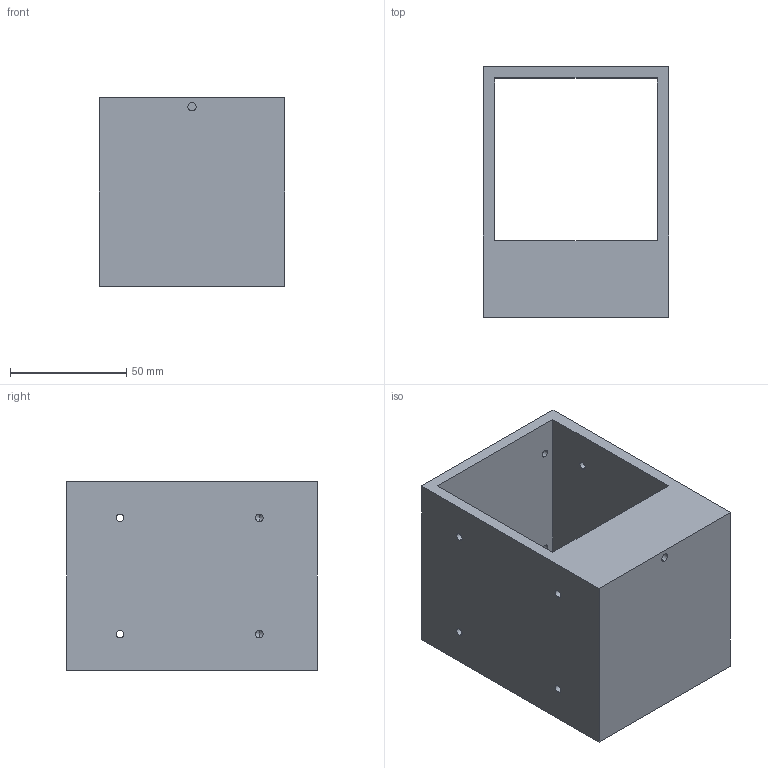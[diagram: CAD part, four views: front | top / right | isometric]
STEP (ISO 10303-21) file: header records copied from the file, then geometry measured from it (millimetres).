
FILE_DESCRIPTION (( 'STEP AP203' ), '1' );
FILE_NAME ('3D-CO70.STEP', '2019-08-09T08:06:29', ( '' ), ( '' ), 'SwSTEP 2.0', 'SolidWorks 2018', '' );
FILE_SCHEMA (( 'CONFIG_CONTROL_DESIGN' ));
Length unit declared in the file: millimetre
Products named in the file (1): 3D-CO70
Bounding box: 80 x 108 x 81 mm (x, y, z)
Volume: 302139.2 mm3; surface area: 61431.5 mm2
Topology: 1 solids, 1 shells, 45 faces, 118 edges, 72 vertices
Faces by surface type: cylinder 26, plane 11, cone 8
Entity records: 1457 total; most frequent: DIRECTION 254, CARTESIAN_POINT 228, ORIENTED_EDGE 220, EDGE_CURVE 110, AXIS2_PLACEMENT_3D 98, VERTEX_POINT 72, EDGE_LOOP 68, LINE 58
